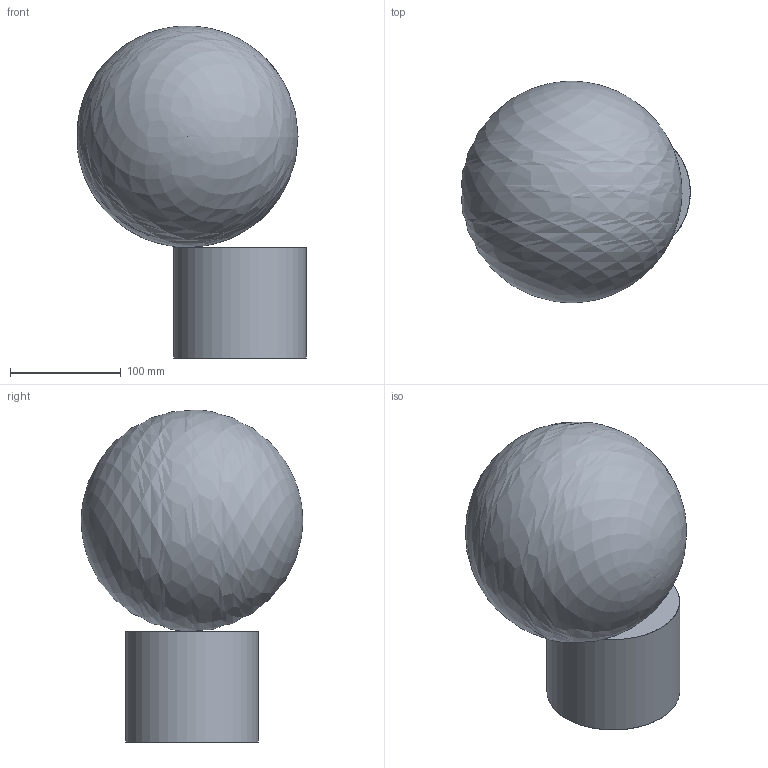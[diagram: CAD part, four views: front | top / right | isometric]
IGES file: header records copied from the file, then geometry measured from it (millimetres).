
Global section: file name: /Users/MA/Desktop/SIMPLIFIED 3D/TIP OF THE TONGUE/Tip of the Tongue.igs; preprocessor: Trout Lake IGES 012 May 24 2015; date: 150602.154608; units: millimetre
Bounding box: 206.6 x 200 x 299.91 mm (x, y, z)
Surface area: 186340.4 mm2 (no closed solid volume)
Topology: 0 solids, 0 shells, 4 faces, 14 edges, 12 vertices
Faces by surface type: bspline 4
